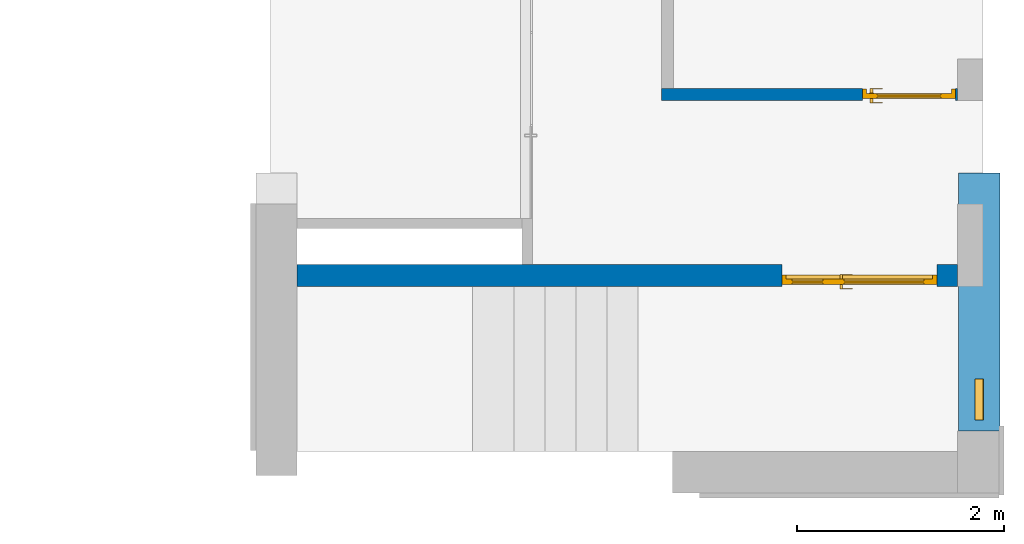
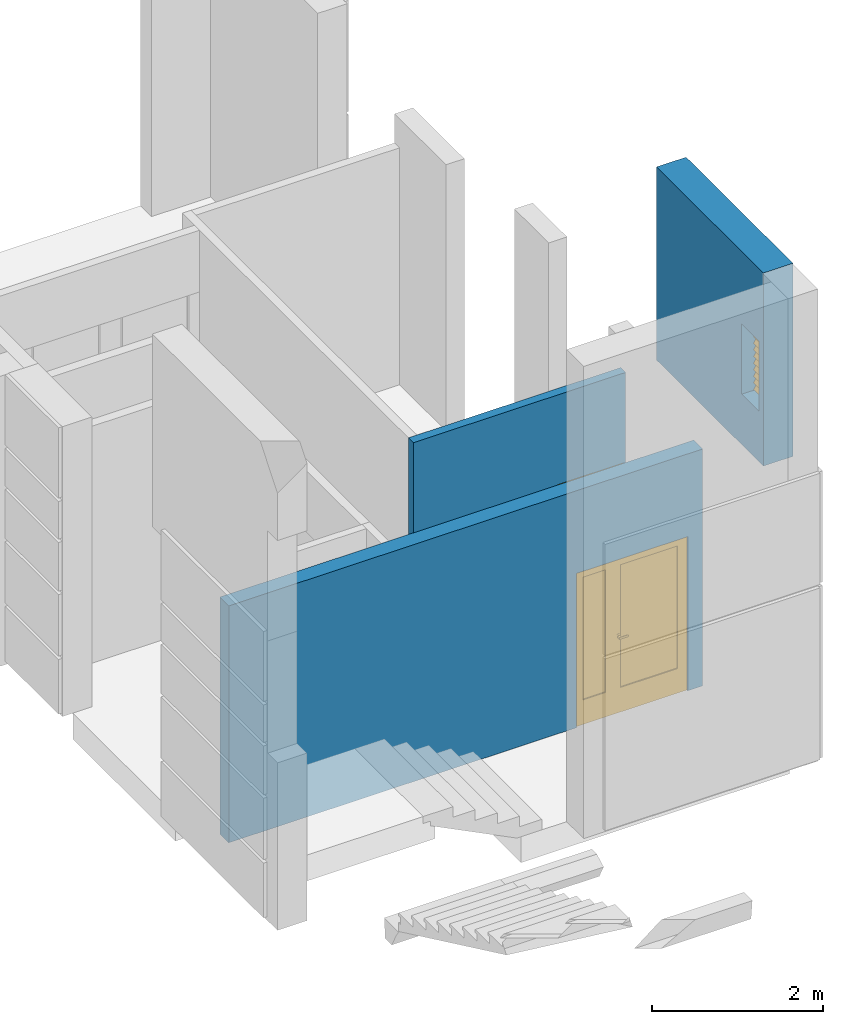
"""IFC2X3 building model written with IfcOpenShell, lengths in millimetres."""

from ifc_helpers import new_model, entity, si_unit, converted_unit, derived_unit, direction, frame, frame_2d, origin, place, context, subcontext, project, spatial, polyline, circle_curve, parameter, trimmed, segment, composite_curve, rectangle, outline, extrude, faceted_brep, source, transform, mapped, material, material_list, layer, layer_set, layer_usage, type_object, type_shapes, element, fill, save


model = new_model("IFC2X3")

# Units and contexts
model_context = context("Model", 3, precision=0.01, world=origin(), true_north=direction((6.12303176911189e-17, 1.0)))
body_context = subcontext(model_context, "Body", "Model", "MODEL_VIEW")
ifc_project = project(units=[si_unit("LENGTHUNIT", "METRE", prefix="MILLI"), si_unit("AREAUNIT", "SQUARE_METRE"), si_unit("VOLUMEUNIT", "CUBIC_METRE"), converted_unit("PLANEANGLEUNIT", "DEGREE", entity("IfcRatioMeasure", 0.0174532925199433), si_unit("PLANEANGLEUNIT", "RADIAN"), dimensions=[0, 0, 0, 0, 0, 0, 0]), si_unit("MASSUNIT", "GRAM", prefix="KILO"), derived_unit("MASSDENSITYUNIT", [(si_unit("MASSUNIT", "GRAM", prefix="KILO"), 1), (si_unit("LENGTHUNIT", "METRE"), -3)]), si_unit("TIMEUNIT", "SECOND"), si_unit("FREQUENCYUNIT", "HERTZ"), si_unit("THERMODYNAMICTEMPERATUREUNIT", "DEGREE_CELSIUS"), derived_unit("THERMALTRANSMITTANCEUNIT", [(si_unit("MASSUNIT", "GRAM", prefix="KILO"), 1), (si_unit("THERMODYNAMICTEMPERATUREUNIT", "KELVIN"), -1), (si_unit("TIMEUNIT", "SECOND"), -3)]), derived_unit("VOLUMETRICFLOWRATEUNIT", [(si_unit("LENGTHUNIT", "METRE"), 3), (si_unit("TIMEUNIT", "SECOND"), -1)]), si_unit("ELECTRICCURRENTUNIT", "AMPERE"), si_unit("ELECTRICVOLTAGEUNIT", "VOLT"), si_unit("POWERUNIT", "WATT"), si_unit("FORCEUNIT", "NEWTON", prefix="KILO"), si_unit("ILLUMINANCEUNIT", "LUX"), si_unit("LUMINOUSFLUXUNIT", "LUMEN"), si_unit("LUMINOUSINTENSITYUNIT", "CANDELA"), derived_unit("USERDEFINED", [(si_unit("MASSUNIT", "GRAM", prefix="KILO"), -1), (si_unit("LENGTHUNIT", "METRE"), -2), (si_unit("TIMEUNIT", "SECOND"), 3), (si_unit("LUMINOUSFLUXUNIT", "LUMEN"), 1)]), derived_unit("LINEARVELOCITYUNIT", [(si_unit("LENGTHUNIT", "METRE"), 1), (si_unit("TIMEUNIT", "SECOND"), -1)]), si_unit("PRESSUREUNIT", "PASCAL"), derived_unit("USERDEFINED", [(si_unit("LENGTHUNIT", "METRE"), -2), (si_unit("MASSUNIT", "GRAM", prefix="KILO"), 1), (si_unit("TIMEUNIT", "SECOND"), -2)])], contexts=[model_context])

# Site, building, storey
site_placement = place(None, frame((-151.875543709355, 2715.0, 0.0)))
site = spatial("IfcSite", under=ifc_project, at=site_placement, Name="Surface", CompositionType="ELEMENT")
building_placement = place(site_placement, origin())
building = spatial("IfcBuilding", under=site, at=building_placement, CompositionType="ELEMENT")
storey_1_placement = place(building_placement, frame((0.0, 0.0, 7670.0)))
storey_1 = spatial("IfcBuildingStorey", under=building, at=storey_1_placement, Name="uus 3 korrus", CompositionType="ELEMENT", Elevation=7670.00000000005)

# Wall, opening, door
ifc_material_1 = material(Name="__Kips GN13_tava")
ifc_layer_1 = layer(ifc_material_1, 12.5)
ifc_layer_2 = layer(ifc_material_1, 12.5)
ifc_material_2 = material(Name="__Soojustus EPS")
ifc_layer_3 = layer(ifc_material_2, 66.0)
ifc_layer_4 = layer(ifc_material_1, 12.5)
ifc_layer_5 = layer(ifc_material_1, 12.5)
ifc_layer_set_1 = layer_set([ifc_layer_1, ifc_layer_2, ifc_layer_3, ifc_layer_4, ifc_layer_5], Name="Basic Wall:SS-3_Kipssein tava ruumide vahel")
ifc_layer_usage_1 = layer_usage(ifc_layer_set_1, "AXIS2", "NEGATIVE", 58.0)
wall_type_1 = type_object("IfcWallType", Name="Basic Wall:SS-3_Kipssein tava ruumide vahel", PredefinedType="STANDARD", material=ifc_layer_set_1)
wall_1_placement = place(storey_1_placement, frame((35531.6162681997, 16668.0448732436, 0.0)))
wall_1 = element("IfcWallStandardCase", 1, at=wall_1_placement, inside=storey_1, type_object=wall_type_1, material=ifc_layer_usage_1, Name="Basic Wall:SS-3_Kipssein tava ruumide vahel", ObjectType="Basic Wall:SS-3_Kipssein tava ruumide vahel", context=body_context, shape_type="SweptSolid", body=[
    extrude(rectangle(XDim=2865.00000000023, YDim=116.0, at=frame_2d((1432.50000000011, -6.50146603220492e-13), x_axis=(-1.0, 0.0))), origin(), (0.0, 0.0, 1.0), 3380.0),
])
opening_1_placement = place(wall_1_placement, frame((2843.50000000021, 58.0, 0.0)))
opening_1 = element("IfcOpeningElement", 2, at=opening_1_placement, cuts=wall_1, Name="Ühepoolsed:SU-02:1", ObjectType="Opening", context=body_context, shape_type="SweptSolid", body=[
    extrude(rectangle(XDim=2099.99999999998, YDim=900.0, at=frame_2d((1049.99999999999, 450.000000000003), x_axis=(1.0, 0.0))), frame((0.0, 0.0, 0.0), z_axis=(0.0, -1.0, 0.0), x_axis=(0.0, 0.0, 1.0)), (0.0, 0.0, 1.0), 116.0),
])
ifc_material_3 = material(Name="_Alumiiniumprofiil - must")
ifc_material_4 = material(Name="__Uks_hele tamm")
ifc_material_5 = material(Name="Glass")
ifc_material_list_1 = material_list([ifc_material_3, ifc_material_4, ifc_material_5])
ifc_material_list_2 = material_list([ifc_material_3, ifc_material_4, ifc_material_5])
door_style_1 = type_object("IfcDoorStyle", Name="SU-02", ConstructionType="NOTDEFINED", OperationType="FOLDING_TO_LEFT", ParameterTakesPrecedence=False, Sizeable=False, material=ifc_material_list_2)
shared_shape_1 = source(origin(), body_context, "Body", "Brep", [
    faceted_brep([(800.0, 6.0, 1112.5), (705.0, 6.0, 1112.5), (705.0, 1.0, 1112.5), (825.0, 1.0, 1112.5), (825.0, 44.0, 1112.5), (800.0, 44.0, 1112.5), (800.0, 6.0, 1087.5), (800.0, 44.0, 1087.5), (825.0, 44.0, 1087.5), (825.0, 1.0, 1087.5), (705.0, 1.0, 1087.5), (705.0, 6.0, 1087.5)], [[[0, 1, 2, 3, 4, 5]], [[6, 7, 8, 9, 10, 11]], [[5, 7, 6, 0]], [[4, 8, 7, 5]], [[3, 9, 8, 4]], [[2, 10, 9, 3]], [[1, 11, 10, 2]], [[0, 6, 11, 1]]]),
    faceted_brep([(787.500000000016, 44.0, 1137.5), (837.500000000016, 44.0, 1137.5), (837.500000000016, 46.0, 1137.5), (787.500000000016, 46.0, 1137.5), (787.500000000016, 44.0, 1017.5), (787.500000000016, 46.0, 1017.5), (837.500000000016, 46.0, 1017.5), (837.500000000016, 44.0, 1017.5)], [[[0, 1, 2, 3]], [[4, 5, 6, 7]], [[3, 5, 4, 0]], [[2, 6, 5, 3]], [[1, 7, 6, 2]], [[0, 4, 7, 1]]]),
    faceted_brep([(800.0, 136.0, 1112.5), (800.0, 98.0, 1112.5), (825.0, 98.0, 1112.5), (825.0, 141.0, 1112.5), (705.0, 141.0, 1112.5), (705.0, 136.0, 1112.5), (800.0, 136.0, 1087.5), (705.0, 136.0, 1087.5), (705.0, 141.0, 1087.5), (825.0, 141.0, 1087.5), (825.0, 98.0, 1087.5), (800.0, 98.0, 1087.5)], [[[0, 1, 2, 3, 4, 5]], [[6, 7, 8, 9, 10, 11]], [[1, 0, 6, 11]], [[2, 1, 11, 10]], [[3, 2, 10, 9]], [[4, 3, 9, 8]], [[5, 4, 8, 7]], [[0, 5, 7, 6]]]),
    faceted_brep([(787.500000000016, 98.0, 1137.5), (787.500000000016, 96.0, 1137.5), (837.500000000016, 96.0, 1137.5), (837.500000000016, 98.0, 1137.5), (787.500000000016, 98.0, 1017.5), (837.500000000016, 98.0, 1017.5), (837.500000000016, 96.0, 1017.5), (787.500000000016, 96.0, 1017.5)], [[[0, 1, 2, 3]], [[4, 5, 6, 7]], [[1, 0, 4, 7]], [[2, 1, 7, 6]], [[3, 2, 6, 5]], [[0, 3, 5, 4]]]),
    faceted_brep([(0.0, 6.0, 0.0), (0.0, 96.0, 0.0), (25.0, 96.0, 0.0), (25.0, 46.0, 0.0), (40.0, 46.0, 0.0), (40.0, 6.0, 0.0), (40.0, 6.0, 2060.0), (860.0, 6.0, 2060.0), (860.0, 6.0, 0.0), (900.0, 6.0, 0.0), (900.0, 6.0, 2100.0), (0.0, 6.0, 2100.0), (40.0, 46.0, 2060.0), (25.0, 46.0, 2075.0), (875.0, 46.0, 2075.0), (875.0, 46.0, 0.0), (860.0, 46.0, 0.0), (860.0, 46.0, 2060.0), (25.0, 96.0, 2075.0), (0.0, 96.0, 2100.0), (900.0, 96.0, 2100.0), (900.0, 96.0, 0.0), (875.0, 96.0, 0.0), (875.0, 96.0, 2075.0)], [[[0, 1, 2, 3, 4, 5]], [[5, 6, 7, 8, 9, 10, 11, 0]], [[4, 12, 6, 5]], [[3, 13, 14, 15, 16, 17, 12, 4]], [[2, 18, 13, 3]], [[1, 19, 20, 21, 22, 23, 18, 2]], [[0, 11, 19, 1]], [[9, 21, 20, 10]], [[8, 16, 15, 22, 21, 9]], [[7, 17, 16, 8]], [[14, 23, 22, 15]], [[6, 12, 17, 7]], [[13, 18, 23, 14]], [[10, 20, 19, 11]]]),
    faceted_brep([(140.0, 61.0, 350.0), (760.0, 61.0, 350.0), (760.0, 61.0, 1960.0), (140.0, 61.0, 1960.0), (140.0, 81.0, 350.0), (140.0, 81.0, 1960.0), (760.0, 81.0, 1960.0), (760.0, 81.0, 350.0)], [[[0, 1, 2, 3]], [[4, 5, 6, 7]], [[3, 5, 4, 0]], [[2, 6, 5, 3]], [[1, 7, 6, 2]], [[0, 4, 7, 1]]]),
    faceted_brep([(25.0, 46.0, 20.0), (875.0, 46.0, 20.0), (875.0, 46.0, 2075.0), (25.0, 46.0, 2075.0), (760.0, 46.0, 350.0), (140.0, 46.0, 350.0), (140.0, 46.0, 1960.0), (760.0, 46.0, 1960.0), (25.0, 96.0, 20.0), (25.0, 96.0, 2075.0), (875.0, 96.0, 2075.0), (875.0, 96.0, 20.0), (760.0, 96.0, 1960.0), (140.0, 96.0, 1960.0), (140.0, 96.0, 350.0), (760.0, 96.0, 350.0)], [[[0, 1, 2, 3], [4, 5, 6, 7]], [[8, 9, 10, 11], [12, 13, 14, 15]], [[3, 9, 8, 0]], [[2, 10, 9, 3]], [[1, 11, 10, 2]], [[0, 8, 11, 1]], [[12, 15, 4, 7]], [[15, 14, 5, 4]], [[14, 13, 6, 5]], [[7, 6, 13, 12]]]),
])
type_shapes(door_style_1, [shared_shape_1])
door_1_placement = place(opening_1_placement, frame((0.0, 0.0, 0.0), z_axis=(0.0, 0.0, 1.0), x_axis=(-1.0, 0.0, 0.0)))
door_1 = element("IfcDoor", 3, at=door_1_placement, inside=storey_1, type_object=door_style_1, material=ifc_material_list_1, Name="Ühepoolsed:SU-02", ObjectType="SU-02", OverallHeight=2099.99999999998, OverallWidth=900.000000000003, context=body_context, shape_type="MappedRepresentation", body=[
    mapped(shared_shape_1, transform((0.0, 0.0, 0.0), scale=1.0)),
])
fill(opening_1, door_1)

# Wall, opening
ifc_material_6 = material(Name="__Tuuletõkkeplaat")
ifc_layer_6 = layer(ifc_material_6, 9.0)
ifc_layer_7 = layer(ifc_material_2, 200.0)
ifc_material_7 = material(Name="__Kergblokk")
ifc_layer_8 = layer(ifc_material_7, 190.0)
ifc_layer_set_2 = layer_set([ifc_layer_6, ifc_layer_7, ifc_layer_8], Name="Basic Wall:VS-2.2_Juurdeehituse välissein")
ifc_layer_usage_2 = layer_usage(ifc_layer_set_2, "AXIS2", "NEGATIVE", 199.5)
wall_type_2 = type_object("IfcWallType", Name="Basic Wall:VS-2.2_Juurdeehituse välissein", PredefinedType="STANDARD", material=ifc_layer_set_2)
wall_2_placement = place(storey_1_placement, frame((38606.1162681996, 15906.039110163, 3980.0), z_axis=(0.0, 0.0, 1.0), x_axis=(0.0, -1.0, 0.0)))
wall_2 = element("IfcWallStandardCase", 4, at=wall_2_placement, inside=storey_1, type_object=wall_type_2, material=ifc_layer_usage_2, Name="Basic Wall:VS-2.2_Juurdeehituse välissein", ObjectType="Basic Wall:VS-2.2_Juurdeehituse välissein", context=body_context, shape_type="SweptSolid", body=[
    extrude(rectangle(XDim=2496.08398340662, YDim=398.999999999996, at=frame_2d((1248.04199170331, 0.0), x_axis=(-1.0, 0.0))), origin(), (0.0, 0.0, 1.0), 2755.00000000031),
])
opening_2_placement = place(wall_2_placement, frame((2391.03911016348, 199.500000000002, 720.0)))
opening_2 = element("IfcOpeningElement", 5, at=opening_2_placement, cuts=wall_2, Name="Ventrestid:VR-02:1", ObjectType="Opening", context=body_context, shape_type="SweptSolid", body=[
    extrude(rectangle(XDim=1000.0, YDim=400.0, at=frame_2d((500.000000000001, 200.0), x_axis=(-1.0, 0.0))), frame((0.0, 0.0, 0.0), z_axis=(0.0, -1.0, 0.0), x_axis=(0.0, 0.0, 1.0)), (0.0, 0.0, 1.0), 399.0),
])

# Storey
storey_2_placement = place(building_placement, origin())
storey_2 = spatial("IfcBuildingStorey", under=building, at=storey_2_placement, Name="1 korrus", CompositionType="ELEMENT", Elevation=3.0969999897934e-10)

# Window
ifc_material_8 = material(Name="Steel/Aluminium")
window_style = type_object("IfcWindowStyle", Name="VR-02", ConstructionType="NOTDEFINED", OperationType="NOTDEFINED", ParameterTakesPrecedence=False, Sizeable=False, material=ifc_material_8)
shared_shape_2 = source(origin(), body_context, "Body", "SweptSolid", [
    extrude(outline(composite_curve([segment(polyline([(-76.1832002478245, -1.59999999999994), (76.1832002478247, -1.59999999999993)]), True, "CONTINUOUS"), segment(trimmed(circle_curve(frame_2d((0.0, 0.0), x_axis=(0.5, 0.86602540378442)), 76.2000000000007), [parameter(298.796850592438)], [parameter(301.203149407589)], True, "PARAMETER"), True, "CONTINUOUS"), segment(polyline([(76.1832002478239, 1.60000000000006), (-76.1832002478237, 1.60000000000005)]), True, "CONTINUOUS"), segment(trimmed(circle_curve(frame_2d((0.0, 0.0), x_axis=(0.5, 0.86602540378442)), 76.2000000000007), [parameter(118.796850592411)], [parameter(121.203149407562)], True, "PARAMETER"), True, "CONTINUOUS")], self_intersect=False)), frame((0.0, 199.500000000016, 829.622222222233), z_axis=(1.0, 0.0, 0.0), x_axis=(0.0, 0.500000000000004, -0.866025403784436)), (0.0, 0.0, 1.0), 400.0),
    extrude(outline(composite_curve([segment(polyline([(-76.1832002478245, -1.59999999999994), (76.1832002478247, -1.59999999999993)]), True, "CONTINUOUS"), segment(trimmed(circle_curve(frame_2d((0.0, 0.0), x_axis=(0.5, 0.86602540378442)), 76.2000000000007), [parameter(298.796850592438)], [parameter(301.203149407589)], True, "PARAMETER"), True, "CONTINUOUS"), segment(polyline([(76.1832002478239, 1.60000000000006), (-76.1832002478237, 1.60000000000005)]), True, "CONTINUOUS"), segment(trimmed(circle_curve(frame_2d((0.0, 0.0), x_axis=(0.5, 0.86602540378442)), 76.2000000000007), [parameter(118.796850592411)], [parameter(121.203149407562)], True, "PARAMETER"), True, "CONTINUOUS")], self_intersect=False)), frame((0.0, 199.500000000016, 735.444444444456), z_axis=(1.0, 0.0, 0.0), x_axis=(0.0, 0.500000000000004, -0.866025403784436)), (0.0, 0.0, 1.0), 400.0),
    extrude(outline(composite_curve([segment(polyline([(-76.1832002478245, -1.59999999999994), (76.1832002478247, -1.59999999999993)]), True, "CONTINUOUS"), segment(trimmed(circle_curve(frame_2d((0.0, 0.0), x_axis=(0.5, 0.86602540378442)), 76.2000000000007), [parameter(298.796850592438)], [parameter(301.203149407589)], True, "PARAMETER"), True, "CONTINUOUS"), segment(polyline([(76.1832002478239, 1.60000000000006), (-76.1832002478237, 1.60000000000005)]), True, "CONTINUOUS"), segment(trimmed(circle_curve(frame_2d((0.0, 0.0), x_axis=(0.5, 0.86602540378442)), 76.2000000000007), [parameter(118.796850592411)], [parameter(121.203149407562)], True, "PARAMETER"), True, "CONTINUOUS")], self_intersect=False)), frame((0.0, 199.500000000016, 641.266666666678), z_axis=(1.0, 0.0, 0.0), x_axis=(0.0, 0.500000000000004, -0.866025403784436)), (0.0, 0.0, 1.0), 400.0),
    extrude(outline(composite_curve([segment(polyline([(-76.1832002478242, -1.60000000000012), (76.183200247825, -1.6000000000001)]), True, "CONTINUOUS"), segment(trimmed(circle_curve(frame_2d((0.0, 0.0), x_axis=(0.5, 0.86602540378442)), 76.2000000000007), [parameter(298.796850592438)], [parameter(301.203149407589)], True, "PARAMETER"), True, "CONTINUOUS"), segment(polyline([(76.1832002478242, 1.59999999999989), (-76.1832002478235, 1.59999999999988)]), True, "CONTINUOUS"), segment(trimmed(circle_curve(frame_2d((0.0, 0.0), x_axis=(0.5, 0.86602540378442)), 76.2000000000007), [parameter(118.796850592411)], [parameter(121.203149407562)], True, "PARAMETER"), True, "CONTINUOUS")], self_intersect=False)), frame((0.0, 199.500000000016, 547.0888888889), z_axis=(1.0, 0.0, 0.0), x_axis=(0.0, 0.500000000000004, -0.866025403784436)), (0.0, 0.0, 1.0), 400.0),
    extrude(outline(composite_curve([segment(polyline([(-76.1832002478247, -1.59999999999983), (76.1832002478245, -1.59999999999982)]), True, "CONTINUOUS"), segment(trimmed(circle_curve(frame_2d((0.0, 0.0), x_axis=(0.5, 0.86602540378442)), 76.2000000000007), [parameter(298.796850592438)], [parameter(301.203149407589)], True, "PARAMETER"), True, "CONTINUOUS"), segment(polyline([(76.1832002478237, 1.60000000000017), (-76.1832002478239, 1.60000000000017)]), True, "CONTINUOUS"), segment(trimmed(circle_curve(frame_2d((0.0, 0.0), x_axis=(0.5, 0.86602540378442)), 76.2000000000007), [parameter(118.796850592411)], [parameter(121.203149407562)], True, "PARAMETER"), True, "CONTINUOUS")], self_intersect=False)), frame((0.0, 199.500000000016, 452.911111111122), z_axis=(1.0, 0.0, 0.0), x_axis=(0.0, 0.500000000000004, -0.866025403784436)), (0.0, 0.0, 1.0), 400.0),
    extrude(outline(composite_curve([segment(polyline([(-76.1832002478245, -1.59999999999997), (76.1832002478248, -1.59999999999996)]), True, "CONTINUOUS"), segment(trimmed(circle_curve(frame_2d((0.0, 0.0), x_axis=(0.5, 0.86602540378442)), 76.2000000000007), [parameter(298.796850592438)], [parameter(301.203149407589)], True, "PARAMETER"), True, "CONTINUOUS"), segment(polyline([(76.1832002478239, 1.60000000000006), (-76.1832002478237, 1.60000000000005)]), True, "CONTINUOUS"), segment(trimmed(circle_curve(frame_2d((0.0, 0.0), x_axis=(0.5, 0.86602540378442)), 76.2000000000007), [parameter(118.796850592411)], [parameter(121.203149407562)], True, "PARAMETER"), True, "CONTINUOUS")], self_intersect=False)), frame((0.0, 199.500000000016, 358.733333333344), z_axis=(1.0, 0.0, 0.0), x_axis=(0.0, 0.500000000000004, -0.866025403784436)), (0.0, 0.0, 1.0), 400.0),
    extrude(outline(composite_curve([segment(polyline([(-76.1832002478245, -1.59999999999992), (76.1832002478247, -1.59999999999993)]), True, "CONTINUOUS"), segment(trimmed(circle_curve(frame_2d((0.0, 0.0), x_axis=(0.500000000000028, 0.86602540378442)), 76.2000000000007), [parameter(298.796850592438)], [parameter(301.203149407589)], True, "PARAMETER"), True, "CONTINUOUS"), segment(polyline([(76.1832002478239, 1.60000000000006), (-76.1832002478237, 1.60000000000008)]), True, "CONTINUOUS"), segment(trimmed(circle_curve(frame_2d((0.0, 0.0), x_axis=(0.500000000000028, 0.86602540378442)), 76.2000000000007), [parameter(118.796850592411)], [parameter(121.203149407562)], True, "PARAMETER"), True, "CONTINUOUS")], self_intersect=False)), frame((0.0, 199.500000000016, 264.555555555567), z_axis=(1.0, 0.0, 0.0), x_axis=(0.0, 0.500000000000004, -0.866025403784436)), (0.0, 0.0, 1.0), 400.0),
    extrude(outline(composite_curve([segment(polyline([(-76.1832002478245, -1.59999999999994), (76.1832002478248, -1.59999999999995)]), True, "CONTINUOUS"), segment(trimmed(circle_curve(frame_2d((0.0, 0.0), x_axis=(0.500000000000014, 0.86602540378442)), 76.2000000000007), [parameter(298.796850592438)], [parameter(301.203149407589)], True, "PARAMETER"), True, "CONTINUOUS"), segment(polyline([(76.1832002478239, 1.60000000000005), (-76.1832002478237, 1.60000000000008)]), True, "CONTINUOUS"), segment(trimmed(circle_curve(frame_2d((0.0, 0.0), x_axis=(0.500000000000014, 0.86602540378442)), 76.2000000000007), [parameter(118.796850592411)], [parameter(121.203149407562)], True, "PARAMETER"), True, "CONTINUOUS")], self_intersect=False)), frame((0.0, 199.500000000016, 170.377777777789), z_axis=(1.0, 0.0, 0.0), x_axis=(0.0, 0.500000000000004, -0.866025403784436)), (0.0, 0.0, 1.0), 400.0),
    extrude(outline(composite_curve([segment(polyline([(-76.1832002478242, -1.60000000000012), (76.183200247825, -1.60000000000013)]), True, "CONTINUOUS"), segment(trimmed(circle_curve(frame_2d((0.0, 0.0), x_axis=(0.5, 0.86602540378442)), 76.2000000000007), [parameter(298.796850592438)], [parameter(301.203149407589)], True, "PARAMETER"), True, "CONTINUOUS"), segment(polyline([(76.1832002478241, 1.59999999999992), (-76.1832002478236, 1.59999999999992)]), True, "CONTINUOUS"), segment(trimmed(circle_curve(frame_2d((0.0, 0.0), x_axis=(0.5, 0.86602540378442)), 76.2000000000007), [parameter(118.796850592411)], [parameter(121.203149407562)], True, "PARAMETER"), True, "CONTINUOUS")], self_intersect=False)), frame((0.0, 199.500000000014, 923.800000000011), z_axis=(1.0, 0.0, 0.0), x_axis=(0.0, 0.500000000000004, -0.866025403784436)), (0.0, 0.0, 1.0), 400.0),
    extrude(outline(composite_curve([segment(polyline([(-76.1832002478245, -1.59999999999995), (76.1832002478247, -1.59999999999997)]), True, "CONTINUOUS"), segment(trimmed(circle_curve(frame_2d((0.0, 0.0), x_axis=(0.500000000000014, 0.866025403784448)), 76.2000000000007), [parameter(298.796850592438)], [parameter(301.203149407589)], True, "PARAMETER"), True, "CONTINUOUS"), segment(polyline([(76.1832002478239, 1.60000000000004), (-76.1832002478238, 1.60000000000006)]), True, "CONTINUOUS"), segment(trimmed(circle_curve(frame_2d((0.0, 0.0), x_axis=(0.500000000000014, 0.866025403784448)), 76.2000000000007), [parameter(118.796850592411)], [parameter(121.203149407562)], True, "PARAMETER"), True, "CONTINUOUS")], self_intersect=False)), frame((0.0, 199.500000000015, 76.2000000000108), z_axis=(1.0, 0.0, 0.0), x_axis=(0.0, 0.500000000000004, -0.866025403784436)), (0.0, 0.0, 1.0), 400.0),
])
type_shapes(window_style, [shared_shape_2])
window_placement = place(opening_2_placement, frame((0.0, 0.0, 0.0), z_axis=(0.0, 0.0, 1.0), x_axis=(-1.0, 0.0, 0.0)))
window = element("IfcWindow", 6, at=window_placement, inside=storey_2, type_object=window_style, material=ifc_material_8, Name="Ventrestid:VR-02", ObjectType="VR-02", OverallHeight=1000.0, OverallWidth=400.0, context=body_context, shape_type="MappedRepresentation", body=[
    mapped(shared_shape_2, transform((0.0, 0.0, 0.0), scale=1.0)),
])

fill(opening_2, window)

# Wall, opening, door
ifc_material_9 = material(Name="__Hall krohv")
ifc_layer_9 = layer(ifc_material_9, 10.0)
ifc_layer_10 = layer(ifc_material_7, 190.0)
ifc_layer_11 = layer(ifc_material_9, 10.0)
ifc_layer_set_3 = layer_set([ifc_layer_9, ifc_layer_10, ifc_layer_11], Name="Basic Wall:SS-2.1_Columbia kivi EI-60 sein")
ifc_layer_usage_3 = layer_usage(ifc_layer_set_3, "AXIS2", "NEGATIVE", 105.0)
wall_type_3 = type_object("IfcWallType", Name="Basic Wall:SS-2.1_Columbia kivi EI-60 sein", PredefinedType="STANDARD", material=ifc_layer_set_3)
wall_3_placement = place(storey_1_placement, frame((32001.6162682, 14915.0, 0.0)))
wall_3 = element("IfcWallStandardCase", 7, at=wall_3_placement, inside=storey_1, type_object=wall_type_3, material=ifc_layer_usage_3, Name="Basic Wall:SS-2.1_Columbia kivi EI-60 sein", ObjectType="Basic Wall:SS-2.1_Columbia kivi EI-60 sein", context=body_context, shape_type="SweptSolid", body=[
    extrude(rectangle(XDim=6394.99999999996, YDim=210.0, at=frame_2d((3197.49999999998, -1.98951966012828e-13), x_axis=(-1.0, 0.0))), origin(), (0.0, 0.0, 1.0), 3380.0),
])
opening_3_placement = place(wall_3_placement, frame((6194.0, 105.0, 0.0)))
opening_3 = element("IfcOpeningElement", 8, at=opening_3_placement, cuts=wall_3, Name="Kahepoolsed:SU-14.:1", ObjectType="Opening", context=body_context, shape_type="SweptSolid", body=[
    extrude(rectangle(XDim=2199.99999999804, YDim=1500.0, at=frame_2d((1099.99999999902, 750.0), x_axis=(1.0, 0.0))), frame((0.0, 0.0, 0.0), z_axis=(0.0, -1.0, 0.0), x_axis=(0.0, 0.0, 1.0)), (0.0, 0.0, 1.0), 210.0),
])
ifc_material_10 = material(Name="EP Tavallinen lasi")
ifc_material_list_3 = material_list([ifc_material_3, ifc_material_4, ifc_material_10])
ifc_material_list_4 = material_list([ifc_material_3, ifc_material_4, ifc_material_10])
door_style_2 = type_object("IfcDoorStyle", Name="SU-14.", ConstructionType="NOTDEFINED", OperationType="FOLDING_TO_RIGHT", ParameterTakesPrecedence=False, Sizeable=False, material=ifc_material_list_4)
shared_shape_3 = source(origin(), body_context, "Body", "Brep", [
    faceted_brep([(912.499999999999, 100.0, 1100.0), (817.499999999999, 100.0, 1100.0), (817.499999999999, 95.0, 1100.0), (937.5, 95.0, 1100.0), (937.5, 138.0, 1100.0), (912.5, 138.0, 1100.0), (912.499999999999, 100.0, 1075.0), (912.5, 138.0, 1075.0), (937.5, 138.0, 1075.0), (937.5, 95.0, 1075.0), (817.499999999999, 95.0, 1075.0), (817.499999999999, 100.0, 1075.0)], [[[0, 1, 2, 3, 4, 5]], [[6, 7, 8, 9, 10, 11]], [[5, 7, 6, 0]], [[4, 8, 7, 5]], [[3, 9, 8, 4]], [[2, 10, 9, 3]], [[1, 11, 10, 2]], [[0, 6, 11, 1]]]),
    faceted_brep([(900.0, 138.0, 1125.0), (950.0, 138.0, 1125.0), (950.0, 140.0, 1125.0), (900.0, 140.0, 1125.0), (900.0, 138.0, 1005.0), (900.0, 140.0, 1005.0), (950.0, 140.0, 1005.0), (950.0, 138.0, 1005.0)], [[[0, 1, 2, 3]], [[4, 5, 6, 7]], [[3, 5, 4, 0]], [[2, 6, 5, 3]], [[1, 7, 6, 2]], [[0, 4, 7, 1]]]),
    faceted_brep([(912.499999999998, 230.0, 1100.0), (912.499999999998, 192.0, 1100.0), (937.499999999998, 192.0, 1100.0), (937.499999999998, 235.0, 1100.0), (817.499999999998, 235.0, 1100.0), (817.499999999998, 230.0, 1100.0), (912.499999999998, 230.0, 1075.0), (817.499999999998, 230.0, 1075.0), (817.499999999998, 235.0, 1075.0), (937.499999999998, 235.0, 1075.0), (937.499999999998, 192.0, 1075.0), (912.499999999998, 192.0, 1075.0)], [[[0, 1, 2, 3, 4, 5]], [[6, 7, 8, 9, 10, 11]], [[1, 0, 6, 11]], [[2, 1, 11, 10]], [[3, 2, 10, 9]], [[4, 3, 9, 8]], [[5, 4, 8, 7]], [[0, 5, 7, 6]]]),
    faceted_brep([(900.0, 192.0, 1125.0), (900.0, 190.0, 1125.0), (950.0, 190.0, 1125.0), (950.0, 192.0, 1125.0), (900.0, 192.0, 1005.0), (950.0, 192.0, 1005.0), (950.0, 190.0, 1005.0), (900.0, 190.0, 1005.0)], [[[0, 1, 2, 3]], [[4, 5, 6, 7]], [[1, 0, 4, 7]], [[2, 1, 7, 6]], [[3, 2, 6, 5]], [[0, 3, 5, 4]]]),
    faceted_brep([(1460.0, 100.0, 30.0), (1460.0, 100.0, 0.0), (1460.0, 140.0, 0.0), (1460.0, 140.0, 20.0), (1460.0, 140.0, 30.0), (40.0, 100.0, 30.0), (40.0, 140.0, 30.0), (40.0, 140.0, 20.0), (40.0, 140.0, 0.0), (40.0, 100.0, 0.0), (25.0, 140.0, 0.0), (25.0, 190.0, 0.0), (1475.0, 190.0, 0.0), (1475.0, 140.0, 0.0), (1475.0, 190.0, 20.0), (1475.0, 140.0, 20.0), (25.0, 190.0, 20.0), (25.0, 140.0, 20.0)], [[[0, 1, 2, 3, 4]], [[5, 6, 7, 8, 9]], [[1, 0, 5, 9]], [[2, 1, 9, 8, 10, 11, 12, 13]], [[6, 4, 3, 7]], [[0, 4, 6, 5]], [[14, 15, 13, 12]], [[16, 11, 10, 17]], [[15, 14, 16, 17, 7, 3]], [[13, 15, 3, 2]], [[14, 12, 11, 16]], [[17, 10, 8, 7]]]),
    faceted_brep([(1500.0, 100.0, 0.0), (1460.0, 100.0, 0.0), (1460.0, 140.0, 0.0), (1475.0, 140.0, 0.0), (1475.0, 190.0, 0.0), (1500.0, 190.0, 0.0), (1500.0, 100.0, 2200.0), (0.0, 100.0, 2200.0), (0.0, 100.0, 0.0), (40.0, 100.0, 0.0), (40.0, 100.0, 2160.0), (1460.0, 100.0, 2160.0), (1460.0, 140.0, 2160.0), (40.0, 140.0, 2160.0), (40.0, 140.0, 0.0), (25.0, 140.0, 0.0), (25.0, 140.0, 2175.0), (1475.0, 140.0, 2175.0), (1475.0, 190.0, 2175.0), (25.0, 190.0, 2175.0), (25.0, 190.0, 0.0), (0.0, 190.0, 0.0), (0.0, 190.0, 2200.0), (1500.0, 190.0, 2200.0)], [[[0, 1, 2, 3, 4, 5]], [[1, 0, 6, 7, 8, 9, 10, 11]], [[2, 1, 11, 12]], [[3, 2, 12, 13, 14, 15, 16, 17]], [[4, 3, 17, 18]], [[5, 4, 18, 19, 20, 21, 22, 23]], [[0, 5, 23, 6]], [[8, 7, 22, 21]], [[9, 8, 21, 20, 15, 14]], [[10, 9, 14, 13]], [[16, 15, 20, 19]], [[11, 10, 13, 12]], [[17, 16, 19, 18]], [[7, 6, 23, 22]]]),
    faceted_brep([(125.0, 155.0, 350.0), (900.0, 155.0, 350.0), (900.0, 155.0, 2100.0), (125.0, 155.0, 2100.0), (125.0, 175.0, 350.0), (125.0, 175.0, 2100.0), (900.0, 175.0, 2100.0), (900.0, 175.0, 350.0)], [[[0, 1, 2, 3]], [[4, 5, 6, 7]], [[1, 0, 4, 7]], [[2, 1, 7, 6]], [[3, 2, 6, 5]], [[0, 3, 5, 4]]]),
    faceted_brep([(1100.0, 155.0, 350.0), (1400.0, 155.0, 350.0), (1400.0, 155.0, 2100.0), (1100.0, 155.0, 2100.0), (1100.0, 175.0, 350.0), (1100.0, 175.0, 2100.0), (1400.0, 175.0, 2100.0), (1400.0, 175.0, 350.0)], [[[0, 1, 2, 3]], [[4, 5, 6, 7]], [[1, 0, 4, 7]], [[2, 1, 7, 6]], [[3, 2, 6, 5]], [[0, 3, 5, 4]]]),
    faceted_brep([(1000.0, 140.0, 2175.0), (25.0, 140.0, 2175.0), (25.0, 140.0, 20.0), (1000.0, 140.0, 20.0), (125.0, 140.0, 350.0), (125.0, 140.0, 2100.0), (900.0, 140.0, 2100.0), (900.0, 140.0, 350.0), (1000.0, 190.0, 2175.0), (1000.0, 190.0, 20.0), (25.0, 190.0, 20.0), (25.0, 190.0, 2175.0), (125.0, 190.0, 2100.0), (125.0, 190.0, 350.0), (900.0, 190.0, 350.0), (900.0, 190.0, 2100.0)], [[[0, 1, 2, 3], [4, 5, 6, 7]], [[8, 9, 10, 11], [12, 13, 14, 15]], [[1, 0, 8, 11]], [[2, 1, 11, 10]], [[3, 2, 10, 9]], [[0, 3, 9, 8]], [[12, 5, 4, 13]], [[13, 4, 7, 14]], [[14, 7, 6, 15]], [[5, 12, 15, 6]]]),
    faceted_brep([(1000.0, 140.0, 2175.0), (1000.0, 140.0, 20.0), (1475.0, 140.0, 20.0), (1475.0, 140.0, 2175.0), (1100.0, 140.0, 350.0), (1100.0, 140.0, 2100.0), (1400.0, 140.0, 2100.0), (1400.0, 140.0, 350.0), (1000.0, 190.0, 2175.0), (1475.0, 190.0, 2175.0), (1475.0, 190.0, 20.0), (1000.0, 190.0, 20.0), (1100.0, 190.0, 2100.0), (1100.0, 190.0, 350.0), (1400.0, 190.0, 350.0), (1400.0, 190.0, 2100.0)], [[[0, 1, 2, 3], [4, 5, 6, 7]], [[8, 9, 10, 11], [12, 13, 14, 15]], [[1, 0, 8, 11]], [[2, 1, 11, 10]], [[3, 2, 10, 9]], [[0, 3, 9, 8]], [[12, 5, 4, 13]], [[13, 4, 7, 14]], [[14, 7, 6, 15]], [[5, 12, 15, 6]]]),
])
type_shapes(door_style_2, [shared_shape_3])
door_2_placement = place(opening_3_placement, frame((0.0, 0.0, 0.0), z_axis=(0.0, 0.0, 1.0), x_axis=(-1.0, 0.0, 0.0)))
door_2 = element("IfcDoor", 9, at=door_2_placement, inside=storey_1, type_object=door_style_2, material=ifc_material_list_3, Name="Kahepoolsed:SU-14.", ObjectType="SU-14.", OverallHeight=2199.99999999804, OverallWidth=1500.0, context=body_context, shape_type="MappedRepresentation", body=[
    mapped(shared_shape_3, transform((0.0, 0.0, 0.0), scale=1.0)),
])
fill(opening_3, door_2)

save(model, "model.ifc")
